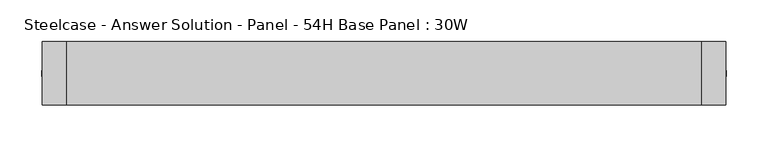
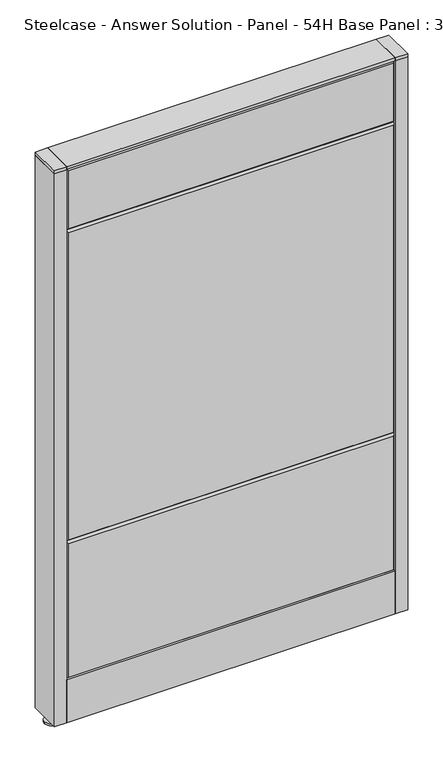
"""IFC4 building model written with IfcOpenShell, lengths in millimetres: furniture geometry, Steelcase - Answer Solution - Panel - 54H Base Panel : 30W."""

from ifc_helpers import new_model, si_unit, point, frame, frame_2d, origin, place, context, project, spatial, polyline, circle_curve, trimmed, segment, composite_curve, outline, extrude, faceted_brep, source, transform, mapped, element, save


def steelcase_answer_solution_panel_54h_base_panel_30w_8f7cdfc1(model_context):
    return source(origin(), model_context, "Body", "SolidModel", [
        extrude(outline(composite_curve([segment(trimmed(circle_curve(frame_2d((395.224, 0.0320214)), 5.08), [point((400.304, 0.0320214))], [point((390.144, 0.0320214))], False, "CARTESIAN"), True, "CONTINUOUS"), segment(trimmed(circle_curve(frame_2d((395.224, 0.0320214)), 5.08), [point((390.144, 0.0320214))], [point((400.304, 0.0320214))], False, "CARTESIAN"), True, "CONTINUOUS")], self_intersect=False)), frame((0.0, 0.0, 5.0799671), z_axis=(0.0, 0.0, 1.0), x_axis=(1.0, 0.0, 0.0)), (0.0, 0.0, 1.0), 10.414),
        extrude(outline(composite_curve([segment(trimmed(circle_curve(frame_2d((395.224, 0.0320214)), 15.24), [point((410.464, 0.0320214))], [point((379.984, 0.0320214))], False, "CARTESIAN"), True, "CONTINUOUS"), segment(trimmed(circle_curve(frame_2d((395.224, 0.0320214)), 15.24), [point((379.984, 0.0320214))], [point((410.464, 0.0320214))], False, "CARTESIAN"), True, "CONTINUOUS")], self_intersect=False)), frame((0.0, 0.0, -3.29e-05), z_axis=(0.0, 0.0, 1.0), x_axis=(1.0, 0.0, 0.0)), (0.0, 0.0, 1.0), 5.08),
        extrude(outline(polyline([(409.575, 38.1320408), (409.575, -38.0679592), (381.0, -38.0679592), (381.0, 38.1320408), (409.575, 38.1320408)])), frame((0.0, 0.0, 1370.6348), z_axis=(0.0, 0.0, 1.0), x_axis=(1.0, 0.0, 0.0)), (0.0, 0.0, 1.0), 7.3151671),
        extrude(outline(polyline([(409.575, 38.1320408), (409.575, -38.0679592), (381.0, -38.0679592), (381.0, 38.1320408), (409.575, 38.1320408)])), frame((0.0, 0.0, 15.4939671), z_axis=(0.0, 0.0, 1.0), x_axis=(1.0, 0.0, 0.0)), (0.0, 0.0, 1.0), 1355.1408329),
        extrude(outline(composite_curve([segment(trimmed(circle_curve(frame_2d((-395.224, 0.0320214)), 5.08), [point((-400.304, 0.0320214))], [point((-390.144, 0.0320214))], False, "CARTESIAN"), True, "CONTINUOUS"), segment(trimmed(circle_curve(frame_2d((-395.224, 0.0320214)), 5.08), [point((-390.144, 0.0320214))], [point((-400.304, 0.0320214))], False, "CARTESIAN"), True, "CONTINUOUS")], self_intersect=False)), frame((0.0, 0.0, 5.0799671), z_axis=(0.0, 0.0, 1.0), x_axis=(1.0, 0.0, 0.0)), (0.0, 0.0, 1.0), 10.414),
        extrude(outline(composite_curve([segment(trimmed(circle_curve(frame_2d((-395.224, 0.0320214)), 15.24), [point((-410.464, 0.0320214))], [point((-379.984, 0.0320214))], False, "CARTESIAN"), True, "CONTINUOUS"), segment(trimmed(circle_curve(frame_2d((-395.224, 0.0320214)), 15.24), [point((-379.984, 0.0320214))], [point((-410.464, 0.0320214))], False, "CARTESIAN"), True, "CONTINUOUS")], self_intersect=False)), frame((0.0, 0.0, -3.29e-05), z_axis=(0.0, 0.0, 1.0), x_axis=(1.0, 0.0, 0.0)), (0.0, 0.0, 1.0), 5.08),
        extrude(outline(polyline([(-409.575, 38.1320408), (-381.0, 38.1320408), (-381.0, -38.0679592), (-409.575, -38.0679592), (-409.575, 38.1320408)])), frame((0.0, 0.0, 1370.6348), z_axis=(0.0, 0.0, 1.0), x_axis=(1.0, 0.0, 0.0)), (0.0, 0.0, 1.0), 7.3151671),
        extrude(outline(polyline([(-409.575, 38.1320408), (-381.0, 38.1320408), (-381.0, -38.0679592), (-409.575, -38.0679592), (-409.575, 38.1320408)])), frame((0.0, 0.0, 15.4939671), z_axis=(0.0, 0.0, 1.0), x_axis=(1.0, 0.0, 0.0)), (0.0, 0.0, 1.0), 1355.1408329),
        faceted_brep([(-376.174, 38.1635011, 1366.774), (376.174, 38.1635011, 1366.774), (376.174, 38.1635011, 1224.026), (-376.174, 38.1635011, 1224.026), (-381.0, 33.3375011, 1371.6), (-381.0, 33.3375011, 1219.2), (381.0, 33.3375011, 1219.2), (381.0, 33.3375011, 1371.6)], [[[0, 1, 2, 3]], [[4, 5, 6, 7]], [[4, 7, 1, 0]], [[7, 6, 2, 1]], [[6, 5, 3, 2]], [[5, 4, 0, 3]]]),
        faceted_brep([(-376.174, 38.1635011, 1214.374), (376.174, 38.1635011, 1214.374), (376.174, 38.1635011, 462.026), (-376.174, 38.1635011, 462.026), (-381.0, 33.3375011, 1219.2), (-381.0, 33.3375011, 457.2), (381.0, 33.3375011, 457.2), (381.0, 33.3375011, 1219.2)], [[[0, 1, 2, 3]], [[4, 5, 6, 7]], [[4, 7, 1, 0]], [[7, 6, 2, 1]], [[6, 5, 3, 2]], [[5, 4, 0, 3]]]),
        faceted_brep([(-376.174, 38.1635011, 452.374), (376.174, 38.1635011, 452.374), (376.174, 38.1635011, 125.476), (-376.174, 38.1635011, 125.476), (-381.0, 33.3375011, 457.2), (-381.0, 33.3375011, 120.65), (381.0, 33.3375011, 120.65), (381.0, 33.3375011, 457.2)], [[[0, 1, 2, 3]], [[4, 5, 6, 7]], [[4, 7, 1, 0]], [[7, 6, 2, 1]], [[6, 5, 3, 2]], [[5, 4, 0, 3]]]),
        faceted_brep([(376.174, -38.1635011, 1366.774), (-376.174, -38.1635011, 1366.774), (-376.174, -38.1635011, 1224.026), (376.174, -38.1635011, 1224.026), (381.0, -33.3375011, 1371.6), (381.0, -33.3375011, 1219.2), (-381.0, -33.3375011, 1219.2), (-381.0, -33.3375011, 1371.6)], [[[0, 1, 2, 3]], [[4, 5, 6, 7]], [[4, 7, 1, 0]], [[7, 6, 2, 1]], [[6, 5, 3, 2]], [[5, 4, 0, 3]]]),
        faceted_brep([(376.174, -38.1635011, 1214.374), (-376.174, -38.1635011, 1214.374), (-376.174, -38.1635011, 462.026), (376.174, -38.1635011, 462.026), (381.0, -33.3375011, 1219.2), (381.0, -33.3375011, 457.2), (-381.0, -33.3375011, 457.2), (-381.0, -33.3375011, 1219.2)], [[[0, 1, 2, 3]], [[4, 5, 6, 7]], [[4, 7, 1, 0]], [[7, 6, 2, 1]], [[6, 5, 3, 2]], [[5, 4, 0, 3]]]),
        faceted_brep([(376.174, -38.1635011, 452.374), (-376.174, -38.1635011, 452.374), (-376.174, -38.1635011, 125.476), (376.174, -38.1635011, 125.476), (381.0, -33.3375011, 457.2), (381.0, -33.3375011, 120.65), (-381.0, -33.3375011, 120.65), (-381.0, -33.3375011, 457.2)], [[[0, 1, 2, 3]], [[4, 5, 6, 7]], [[4, 7, 1, 0]], [[7, 6, 2, 1]], [[6, 5, 3, 2]], [[5, 4, 0, 3]]]),
        extrude(outline(polyline([(381.0, 38.1000194), (381.0, -38.1000194), (-381.0, -38.1000194), (-381.0, 38.1000194), (381.0, 38.1000194)])), frame((0.0, 0.0, 1371.6), z_axis=(0.0, 0.0, 1.0), x_axis=(1.0, 0.0, 0.0)), (0.0, 0.0, 1.0), 6.35),
        extrude(outline(polyline([(25.4000011, 119.8575157), (25.4000011, 120.65), (38.1000194, 120.65), (38.1000194, 15.494), (37.3075215, 15.494), (37.3075215, 119.8575157), (25.4000011, 119.8575157)])), frame((-381.0, 0.0, 0.0), z_axis=(1.0, 0.0, 0.0), x_axis=(0.0, 1.0, 0.0)), (0.0, 0.0, 1.0), 762.0),
        extrude(outline(polyline([(-25.4000011, 119.8575157), (-37.3075215, 119.8575157), (-37.3075215, 15.494), (-38.1000194, 15.494), (-38.1000194, 120.65), (-25.4000011, 120.65), (-25.4000011, 119.8575157)])), frame((-381.0, 0.0, 0.0), z_axis=(1.0, 0.0, 0.0), x_axis=(0.0, 1.0, 0.0)), (0.0, 0.0, 1.0), 762.0),
    ])


if __name__ == "__main__":
    model = new_model("IFC4")
    model_context = context("Model", 3, world=origin())
    ifc_project = project(units=[si_unit("LENGTHUNIT", "METRE", prefix="MILLI")], contexts=[model_context])
    site = spatial("IfcSite", under=ifc_project)
    building = spatial("IfcBuilding", under=site)
    placement = place(None, origin())
    steelcase_answer_solution_panel_54h_base_panel_30w_shape = steelcase_answer_solution_panel_54h_base_panel_30w_8f7cdfc1(model_context)
    element("IfcFurniture", 1, ObjectType="Steelcase - Answer Solution - Panel - 54H Base Panel : 30W", at=placement, inside=building, context=model_context, shape_type="MappedRepresentation", body=[
        mapped(steelcase_answer_solution_panel_54h_base_panel_30w_shape, transform((0.0, 0.0, 0.0), x_axis=(1.0, 0.0, 0.0), y_axis=(0.0, 1.0, 0.0), z_axis=(0.0, 0.0, 1.0))),
    ])
    save(model, "model.ifc")
